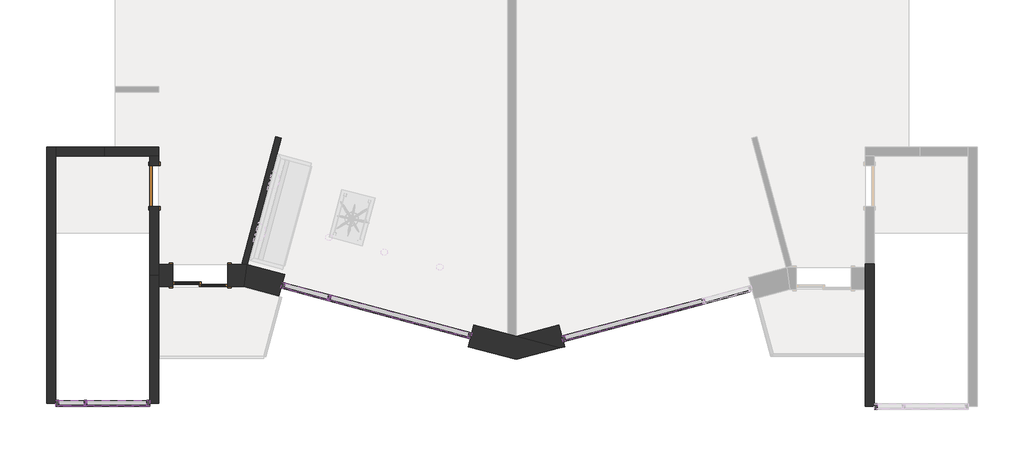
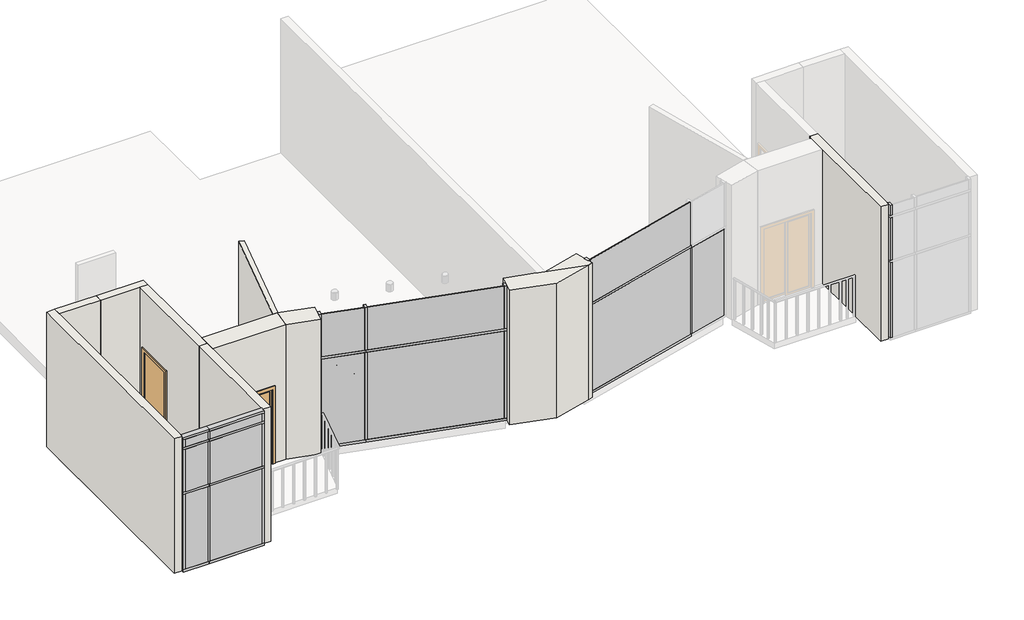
# One storey, part 1 of 3: 34 members, 13 plates, 11 walls, 2 doors.
"""IFC4 building model written with IfcOpenShell, lengths in millimetres."""

from ifc_helpers import new_model, si_unit, frame, origin, place, context, project, spatial, polyline, outline, extrude, faceted_brep, transform, mapped, element, save
from components import door_4f2f89b6, sliding_2_panel_fa528627, glazed_panel_glazed_panel_06b05642, glazed_panel_glazed_panel_b2ebe934, glazed_panel_glazed_panel_48c708ce, glazed_panel_glazed_panel_c77fde78, glazed_panel_glazed_panel_a2050918, glazed_panel_glazed_panel_1e96fca1, glazed_panel_glazed_panel_515930c6, glazed_panel_glazed_panel_f40463b3, glazed_panel_glazed_panel_0b05cef3, glazed_panel_glazed_panel_0a1ca9b5, glazed_panel_glazed_panel_ec4ddaf9, glazed_panel_glazed_panel_cd81baf5, glazed_panel_glazed_panel_d73316d2

model = new_model("IFC4")

# Units and contexts
model_context = context("Model", 3, world=origin())
ifc_project = project(units=[si_unit("LENGTHUNIT", "METRE", prefix="MILLI")], contexts=[model_context])

# Site, building, storey
site = spatial("IfcSite", under=ifc_project)
building = spatial("IfcBuilding", under=site)
storey = spatial("IfcBuildingStorey", under=building, Name="2nd Flr. Cnst.", Elevation=3657.6)

# Doors
placement = place(None, origin())
door_shape = door_4f2f89b6(model_context)
element("IfcDoor", 1, ObjectType="Sgl Flush : 36\" x 80\"", at=placement, inside=storey, context=model_context, shape_type="MappedRepresentation", body=[
    mapped(door_shape, transform((-178.915882, -933.2992683, 3657.6), x_axis=(0.0, 1.0, 0.0), y_axis=(-1.0, 0.0, 0.0), z_axis=(0.0, 0.0, 1.0))),
])
sliding_2_panel_shape = sliding_2_panel_fa528627(model_context)
element("IfcDoor", 2, ObjectType="Sliding-2 panel : Cohouse - Sliding-2 ", at=placement, inside=storey, context=model_context, shape_type="MappedRepresentation", body=[
    mapped(sliding_2_panel_shape, transform((837.084118, -2787.4992683, 3657.6), x_axis=(-1.0, 0.0, 0.0), y_axis=(0.0, -1.0, 0.0), z_axis=(0.0, 0.0, 1.0))),
])

# Members
element("IfcMember", 3, ObjectType="Rectangular Mullion : 2.5\" x 5\" rectangular", at=placement, inside=storey, context=model_context, shape_type="SweptSolid", body=[
    extrude(outline(polyline([(3713.0844872, -3483.4142625), (3651.7481973, -3466.9792531), (3684.618216, -3344.3066732), (3745.954506, -3360.7416825), (3713.0844872, -3483.4142625)])), frame((0.0, 0.0, 3721.1), z_axis=(0.0, 0.0, 1.0), x_axis=(1.0, 0.0, 0.0)), (0.0, 0.0, 1.0), 2374.9),
])
element("IfcMember", 4, ObjectType="Rectangular Mullion : 2.5\" x 5\" rectangular", at=placement, inside=storey, context=model_context, shape_type="SweptSolid", body=[
    extrude(outline(polyline([(3713.0844872, -3483.4142625), (3651.7481973, -3466.9792531), (3684.618216, -3344.3066732), (3745.954506, -3360.7416825), (3713.0844872, -3483.4142625)])), frame((0.0, 0.0, 6159.5), z_axis=(0.0, 0.0, 1.0), x_axis=(1.0, 0.0, 0.0)), (0.0, 0.0, 1.0), 1155.7),
])
element("IfcMember", 5, ObjectType="Rectangular Mullion : 2.5\" x 5\" rectangular", at=placement, inside=storey, context=model_context, shape_type="SweptSolid", body=[
    extrude(outline(polyline([(3715.286361, -3352.5241778), (3682.4163423, -3475.1967578), (2626.8568487, -3192.3604439), (2659.7268674, -3069.687864), (3715.286361, -3352.5241778)])), frame((0.0, 0.0, 6096.0), z_axis=(0.0, 0.0, 1.0), x_axis=(1.0, 0.0, 0.0)), (0.0, 0.0, 1.0), 63.5),
])
element("IfcMember", 6, ObjectType="Rectangular Mullion : 2.5\" x 5\" rectangular", at=placement, inside=storey, context=model_context, shape_type="SweptSolid", body=[
    extrude(outline(polyline([(6855.7490815, -4194.0086277), (6822.8790627, -4316.6812076), (3682.4163423, -3475.1967578), (3715.286361, -3352.5241778), (6855.7490815, -4194.0086277)])), frame((0.0, 0.0, 6096.0), z_axis=(0.0, 0.0, 1.0), x_axis=(1.0, 0.0, 0.0)), (0.0, 0.0, 1.0), 63.5),
])
element("IfcMember", 7, ObjectType="Rectangular Mullion : 2.5\" x 5\" rectangular", at=placement, inside=storey, context=model_context, shape_type="SweptSolid", body=[
    extrude(outline(polyline([(2626.8568487, -3192.3604439), (2659.7268674, -3069.687864), (3715.286361, -3352.5241778), (3682.4163423, -3475.1967578), (2626.8568487, -3192.3604439)])), frame((0.0, 0.0, 3657.6), z_axis=(0.0, 0.0, 1.0), x_axis=(1.0, 0.0, 0.0)), (0.0, 0.0, 1.0), 63.5),
])
element("IfcMember", 8, ObjectType="Rectangular Mullion : 2.5\" x 5\" rectangular", at=placement, inside=storey, context=model_context, shape_type="SweptSolid", body=[
    extrude(outline(polyline([(3682.4163423, -3475.1967578), (3715.286361, -3352.5241778), (6855.7490815, -4194.0086277), (6822.8790627, -4316.6812076), (3682.4163423, -3475.1967578)])), frame((0.0, 0.0, 3657.6), z_axis=(0.0, 0.0, 1.0), x_axis=(1.0, 0.0, 0.0)), (0.0, 0.0, 1.0), 63.5),
])
element("IfcMember", 9, ObjectType="Rectangular Mullion : 2.5\" x 5\" rectangular", at=placement, inside=storey, context=model_context, shape_type="SweptSolid", body=[
    extrude(outline(polyline([(6822.8790627, -4316.6812076), (6761.5427728, -4300.2461982), (6794.4127915, -4177.5736183), (6855.7490815, -4194.0086277), (6822.8790627, -4316.6812076)])), frame((0.0, 0.0, 3721.1), z_axis=(0.0, 0.0, 1.0), x_axis=(1.0, 0.0, 0.0)), (0.0, 0.0, 1.0), 2374.9),
])
element("IfcMember", 10, ObjectType="Rectangular Mullion : 2.5\" x 5\" rectangular", at=placement, inside=storey, context=model_context, shape_type="SweptSolid", body=[
    extrude(outline(polyline([(6822.8790627, -4316.6812076), (6761.5427728, -4300.2461982), (6794.4127915, -4177.5736183), (6855.7490815, -4194.0086277), (6822.8790627, -4316.6812076)])), frame((0.0, 0.0, 6159.5), z_axis=(0.0, 0.0, 1.0), x_axis=(1.0, 0.0, 0.0)), (0.0, 0.0, 1.0), 1155.7),
])
element("IfcMember", 11, ObjectType="Rectangular Mullion : 2.5\" x 5\" rectangular", at=placement, inside=storey, context=model_context, shape_type="SweptSolid", body=[
    extrude(outline(polyline([(2626.8568487, -3192.3604439), (2659.7268674, -3069.687864), (2721.0631574, -3086.1228733), (2688.1931387, -3208.7954533), (2626.8568487, -3192.3604439)])), frame((0.0, 0.0, 6159.5), z_axis=(0.0, 0.0, 1.0), x_axis=(1.0, 0.0, 0.0)), (0.0, 0.0, 1.0), 1155.7),
])
element("IfcMember", 12, ObjectType="Rectangular Mullion : 2.5\" x 5\" rectangular", at=placement, inside=storey, context=model_context, shape_type="SweptSolid", body=[
    extrude(outline(polyline([(2626.8568487, -3192.3604439), (2659.7268674, -3069.687864), (2721.0631574, -3086.1228733), (2688.1931387, -3208.7954533), (2626.8568487, -3192.3604439)])), frame((0.0, 0.0, 3721.1), z_axis=(0.0, 0.0, 1.0), x_axis=(1.0, 0.0, 0.0)), (0.0, 0.0, 1.0), 2374.9),
])
element("IfcMember", 13, ObjectType="Rectangular Mullion : 2.5\" x 5\" rectangular", at=placement, inside=storey, context=model_context, shape_type="SweptSolid", body=[
    extrude(outline(polyline([(8880.4915643, -4383.5871417), (8847.6215456, -4260.9145618), (11985.1047873, -3420.2284609), (12017.9748061, -3542.9010408), (8880.4915643, -4383.5871417)])), frame((0.0, 0.0, 6064.25), z_axis=(0.0, 0.0, 1.0), x_axis=(1.0, 0.0, 0.0)), (0.0, 0.0, 1.0), 63.5),
])
element("IfcMember", 14, ObjectType="Rectangular Mullion : 2.5\" x 5\" rectangular", at=placement, inside=storey, context=model_context, shape_type="SweptSolid", body=[
    extrude(outline(polyline([(11985.1047873, -3420.2284609), (12017.9748061, -3542.9010408), (8880.4915643, -4383.5871417), (8847.6215456, -4260.9145618), (11985.1047873, -3420.2284609)])), frame((0.0, 0.0, 3657.6), z_axis=(0.0, 0.0, 1.0), x_axis=(1.0, 0.0, 0.0)), (0.0, 0.0, 1.0), 63.5),
])
element("IfcMember", 15, ObjectType="Rectangular Mullion : 2.5\" x 5\" rectangular", at=placement, inside=storey, context=model_context, shape_type="SweptSolid", body=[
    extrude(outline(polyline([(8847.6215456, -4260.9145618), (8908.9578356, -4244.4795524), (8941.8278543, -4367.1521323), (8880.4915643, -4383.5871417), (8847.6215456, -4260.9145618)])), frame((0.0, 0.0, 3721.1), z_axis=(0.0, 0.0, 1.0), x_axis=(1.0, 0.0, 0.0)), (0.0, 0.0, 1.0), 2343.15),
])
element("IfcMember", 16, ObjectType="Rectangular Mullion : 2.5\" x 5\" rectangular", at=placement, inside=storey, context=model_context, shape_type="SweptSolid", body=[
    extrude(outline(polyline([(8847.6215456, -4260.9145618), (8908.9578356, -4244.4795524), (8941.8278543, -4367.1521323), (8880.4915643, -4383.5871417), (8847.6215456, -4260.9145618)])), frame((0.0, 0.0, 6127.75), z_axis=(0.0, 0.0, 1.0), x_axis=(1.0, 0.0, 0.0)), (0.0, 0.0, 1.0), 1187.45),
])
element("IfcMember", 17, ObjectType="Rectangular Mullion : 2.5\" x 5\" rectangular", at=placement, inside=storey, context=model_context, shape_type="SweptSolid", body=[
    extrude(outline(polyline([(-2363.315882, -5690.1371942), (-2299.815882, -5690.1371942), (-2299.815882, -5817.1371942), (-2363.315882, -5817.1371942), (-2363.315882, -5690.1371942)])), frame((0.0, 0.0, 3721.1), z_axis=(0.0, 0.0, 1.0), x_axis=(1.0, 0.0, 0.0)), (0.0, 0.0, 1.0), 2038.35),
])
element("IfcMember", 18, ObjectType="Rectangular Mullion : 2.5\" x 5\" rectangular", at=placement, inside=storey, context=model_context, shape_type="SweptSolid", body=[
    extrude(outline(polyline([(-2363.315882, -5817.1371942), (-2363.315882, -5690.1371942), (-1702.915882, -5690.1371942), (-1702.915882, -5817.1371942), (-2363.315882, -5817.1371942)])), frame((0.0, 0.0, 7251.7), z_axis=(0.0, 0.0, 1.0), x_axis=(1.0, 0.0, 0.0)), (0.0, 0.0, 1.0), 63.5),
])
element("IfcMember", 19, ObjectType="Rectangular Mullion : 2.5\" x 5\" rectangular", at=placement, inside=storey, context=model_context, shape_type="SweptSolid", body=[
    extrude(outline(polyline([(-280.515882, -5690.1371942), (-280.515882, -5817.1371942), (-344.015882, -5817.1371942), (-344.015882, -5690.1371942), (-280.515882, -5690.1371942)])), frame((0.0, 0.0, 7042.15), z_axis=(0.0, 0.0, 1.0), x_axis=(1.0, 0.0, 0.0)), (0.0, 0.0, 1.0), 209.55),
])
element("IfcMember", 20, ObjectType="Rectangular Mullion : 2.5\" x 5\" rectangular", at=placement, inside=storey, context=model_context, shape_type="SweptSolid", body=[
    extrude(outline(polyline([(-1734.665882, -5690.1371942), (-1671.165882, -5690.1371942), (-1671.165882, -5817.1371942), (-1734.665882, -5817.1371942), (-1734.665882, -5690.1371942)])), frame((0.0, 0.0, 3721.1), z_axis=(0.0, 0.0, 1.0), x_axis=(1.0, 0.0, 0.0)), (0.0, 0.0, 1.0), 2038.35),
])
element("IfcMember", 21, ObjectType="Rectangular Mullion : 2.5\" x 5\" rectangular", at=placement, inside=storey, context=model_context, shape_type="SweptSolid", body=[
    extrude(outline(polyline([(-1702.915882, -5817.1371942), (-1702.915882, -5690.1371942), (-280.515882, -5690.1371942), (-280.515882, -5817.1371942), (-1702.915882, -5817.1371942)])), frame((0.0, 0.0, 5759.45), z_axis=(0.0, 0.0, 1.0), x_axis=(1.0, 0.0, 0.0)), (0.0, 0.0, 1.0), 63.5),
])
element("IfcMember", 22, ObjectType="Rectangular Mullion : 2.5\" x 5\" rectangular", at=placement, inside=storey, context=model_context, shape_type="SweptSolid", body=[
    extrude(outline(polyline([(-2363.315882, -5817.1371942), (-2363.315882, -5690.1371942), (-1702.915882, -5690.1371942), (-1702.915882, -5817.1371942), (-2363.315882, -5817.1371942)])), frame((0.0, 0.0, 5759.45), z_axis=(0.0, 0.0, 1.0), x_axis=(1.0, 0.0, 0.0)), (0.0, 0.0, 1.0), 63.5),
])
element("IfcMember", 23, ObjectType="Rectangular Mullion : 2.5\" x 5\" rectangular", at=placement, inside=storey, context=model_context, shape_type="SweptSolid", body=[
    extrude(outline(polyline([(-2363.315882, -5690.1371942), (-2299.815882, -5690.1371942), (-2299.815882, -5817.1371942), (-2363.315882, -5817.1371942), (-2363.315882, -5690.1371942)])), frame((0.0, 0.0, 5822.95), z_axis=(0.0, 0.0, 1.0), x_axis=(1.0, 0.0, 0.0)), (0.0, 0.0, 1.0), 1155.7),
])
element("IfcMember", 24, ObjectType="Rectangular Mullion : 2.5\" x 5\" rectangular", at=placement, inside=storey, context=model_context, shape_type="SweptSolid", body=[
    extrude(outline(polyline([(-1702.915882, -5817.1371942), (-1702.915882, -5690.1371942), (-280.515882, -5690.1371942), (-280.515882, -5817.1371942), (-1702.915882, -5817.1371942)])), frame((0.0, 0.0, 7251.7), z_axis=(0.0, 0.0, 1.0), x_axis=(1.0, 0.0, 0.0)), (0.0, 0.0, 1.0), 63.5),
])
element("IfcMember", 25, ObjectType="Rectangular Mullion : 2.5\" x 5\" rectangular", at=placement, inside=storey, context=model_context, shape_type="SweptSolid", body=[
    extrude(outline(polyline([(-280.515882, -5690.1371942), (-280.515882, -5817.1371942), (-344.015882, -5817.1371942), (-344.015882, -5690.1371942), (-280.515882, -5690.1371942)])), frame((0.0, 0.0, 3721.1), z_axis=(0.0, 0.0, 1.0), x_axis=(1.0, 0.0, 0.0)), (0.0, 0.0, 1.0), 2038.35),
])
element("IfcMember", 26, ObjectType="Rectangular Mullion : 2.5\" x 5\" rectangular", at=placement, inside=storey, context=model_context, shape_type="SweptSolid", body=[
    extrude(outline(polyline([(-1734.665882, -5690.1371942), (-1671.165882, -5690.1371942), (-1671.165882, -5817.1371942), (-1734.665882, -5817.1371942), (-1734.665882, -5690.1371942)])), frame((0.0, 0.0, 5822.95), z_axis=(0.0, 0.0, 1.0), x_axis=(1.0, 0.0, 0.0)), (0.0, 0.0, 1.0), 1155.7),
])
element("IfcMember", 27, ObjectType="Rectangular Mullion : 2.5\" x 5\" rectangular", at=placement, inside=storey, context=model_context, shape_type="SweptSolid", body=[
    extrude(outline(polyline([(15772.284118, -5759.6962362), (15835.784118, -5759.6962362), (15835.784118, -5886.6962362), (15772.284118, -5886.6962362), (15772.284118, -5759.6962362)])), frame((0.0, 0.0, 3721.1), z_axis=(0.0, 0.0, 1.0), x_axis=(1.0, 0.0, 0.0)), (0.0, 0.0, 1.0), 2038.35),
])
element("IfcMember", 28, ObjectType="Rectangular Mullion : 2.5\" x 5\" rectangular", at=placement, inside=storey, context=model_context, shape_type="SweptSolid", body=[
    extrude(outline(polyline([(15772.284118, -5759.6962362), (15835.784118, -5759.6962362), (15835.784118, -5886.6962362), (15772.284118, -5886.6962362), (15772.284118, -5759.6962362)])), frame((0.0, 0.0, 7042.15), z_axis=(0.0, 0.0, 1.0), x_axis=(1.0, 0.0, 0.0)), (0.0, 0.0, 1.0), 273.05),
])
element("IfcMember", 29, ObjectType="Rectangular Mullion : 2.5\" x 5\" rectangular", at=placement, inside=storey, context=model_context, shape_type="SweptSolid", body=[
    extrude(outline(polyline([(15772.284118, -5759.6962362), (15835.784118, -5759.6962362), (15835.784118, -5886.6962362), (15772.284118, -5886.6962362), (15772.284118, -5759.6962362)])), frame((0.0, 0.0, 5822.95), z_axis=(0.0, 0.0, 1.0), x_axis=(1.0, 0.0, 0.0)), (0.0, 0.0, 1.0), 1155.7),
])
element("IfcMember", 30, ObjectType="Rectangular Mullion : 2.5\" x 5\" rectangular", at=placement, inside=storey, context=model_context, shape_type="SweptSolid", body=[
    extrude(outline(polyline([(-1702.915882, -5817.1371942), (-1702.915882, -5690.1371942), (-280.515882, -5690.1371942), (-280.515882, -5817.1371942), (-1702.915882, -5817.1371942)])), frame((0.0, 0.0, 6978.65), z_axis=(0.0, 0.0, 1.0), x_axis=(1.0, 0.0, 0.0)), (0.0, 0.0, 1.0), 63.5),
])
element("IfcMember", 31, ObjectType="Rectangular Mullion : 2.5\" x 5\" rectangular", at=placement, inside=storey, context=model_context, shape_type="SweptSolid", body=[
    extrude(outline(polyline([(-2363.315882, -5817.1371942), (-2363.315882, -5690.1371942), (-1702.915882, -5690.1371942), (-1702.915882, -5817.1371942), (-2363.315882, -5817.1371942)])), frame((0.0, 0.0, 6978.65), z_axis=(0.0, 0.0, 1.0), x_axis=(1.0, 0.0, 0.0)), (0.0, 0.0, 1.0), 63.5),
])
element("IfcMember", 32, ObjectType="Rectangular Mullion : 2.5\" x 5\" rectangular", at=placement, inside=storey, context=model_context, shape_type="SweptSolid", body=[
    extrude(outline(polyline([(-1734.665882, -5690.1371942), (-1671.165882, -5690.1371942), (-1671.165882, -5817.1371942), (-1734.665882, -5817.1371942), (-1734.665882, -5690.1371942)])), frame((0.0, 0.0, 7042.15), z_axis=(0.0, 0.0, 1.0), x_axis=(1.0, 0.0, 0.0)), (0.0, 0.0, 1.0), 209.55),
])
element("IfcMember", 33, ObjectType="Rectangular Mullion : 2.5\" x 5\" rectangular", at=placement, inside=storey, context=model_context, shape_type="SweptSolid", body=[
    extrude(outline(polyline([(-280.515882, -5690.1371942), (-280.515882, -5817.1371942), (-1702.915882, -5817.1371942), (-1702.915882, -5690.1371942), (-280.515882, -5690.1371942)])), frame((0.0, 0.0, 3657.6), z_axis=(0.0, 0.0, 1.0), x_axis=(1.0, 0.0, 0.0)), (0.0, 0.0, 1.0), 63.5),
])
element("IfcMember", 34, ObjectType="Rectangular Mullion : 2.5\" x 5\" rectangular", at=placement, inside=storey, context=model_context, shape_type="SweptSolid", body=[
    extrude(outline(polyline([(-1702.915882, -5690.1371942), (-1702.915882, -5817.1371942), (-2363.315882, -5817.1371942), (-2363.315882, -5690.1371942), (-1702.915882, -5690.1371942)])), frame((0.0, 0.0, 3657.6), z_axis=(0.0, 0.0, 1.0), x_axis=(1.0, 0.0, 0.0)), (0.0, 0.0, 1.0), 63.5),
])
element("IfcMember", 35, ObjectType="Rectangular Mullion : 2.5\" x 5\" rectangular", at=placement, inside=storey, context=model_context, shape_type="SweptSolid", body=[
    extrude(outline(polyline([(-2363.315882, -5690.1371942), (-2299.815882, -5690.1371942), (-2299.815882, -5817.1371942), (-2363.315882, -5817.1371942), (-2363.315882, -5690.1371942)])), frame((0.0, 0.0, 7042.15), z_axis=(0.0, 0.0, 1.0), x_axis=(1.0, 0.0, 0.0)), (0.0, 0.0, 1.0), 209.55),
])
element("IfcMember", 36, ObjectType="Rectangular Mullion : 2.5\" x 5\" rectangular", at=placement, inside=storey, context=model_context, shape_type="SweptSolid", body=[
    extrude(outline(polyline([(-280.515882, -5690.1371942), (-280.515882, -5817.1371942), (-344.015882, -5817.1371942), (-344.015882, -5690.1371942), (-280.515882, -5690.1371942)])), frame((0.0, 0.0, 5822.95), z_axis=(0.0, 0.0, 1.0), x_axis=(1.0, 0.0, 0.0)), (0.0, 0.0, 1.0), 1155.7),
])

# Plates
glazed_panel_glazed_panel_shape = glazed_panel_glazed_panel_06b05642(model_context)
element("IfcPlate", 37, ObjectType="Glazed Panel : Glazed Panel", at=placement, inside=storey, context=model_context, shape_type="MappedRepresentation", body=[
    mapped(glazed_panel_glazed_panel_shape, transform((-1007.590882, -5753.6371942, 3721.1), x_axis=(-1.0, 0.0, 0.0), y_axis=(0.0, -1.0, 0.0), z_axis=(0.0, 0.0, 1.0))),
])
glazed_panel_glazed_panel_2_shape = glazed_panel_glazed_panel_b2ebe934(model_context)
element("IfcPlate", 38, ObjectType="Glazed Panel : Glazed Panel", at=placement, inside=storey, context=model_context, shape_type="MappedRepresentation", body=[
    mapped(glazed_panel_glazed_panel_2_shape, transform((3186.4056773, -3276.5510632, 3721.1), x_axis=(0.9659258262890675, -0.2588190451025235, 0.0), y_axis=(0.2588190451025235, 0.9659258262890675, 0.0), z_axis=(0.0, 0.0, 1.0))),
])
glazed_panel_glazed_panel_3_shape = glazed_panel_glazed_panel_48c708ce(model_context)
element("IfcPlate", 39, ObjectType="Glazed Panel : Glazed Panel", at=placement, inside=storey, context=model_context, shape_type="MappedRepresentation", body=[
    mapped(glazed_panel_glazed_panel_3_shape, transform((5253.7486394, -3830.4939404, 3721.1), x_axis=(0.9659258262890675, -0.2588190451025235, 0.0), y_axis=(0.2588190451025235, 0.9659258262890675, 0.0), z_axis=(0.0, 0.0, 1.0))),
])
glazed_panel_glazed_panel_4_shape = glazed_panel_glazed_panel_c77fde78(model_context)
element("IfcPlate", 40, ObjectType="Glazed Panel : Glazed Panel", at=placement, inside=storey, context=model_context, shape_type="MappedRepresentation", body=[
    mapped(glazed_panel_glazed_panel_4_shape, transform((3186.4056773, -3276.5510632, 6159.5), x_axis=(0.9659258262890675, -0.2588190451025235, 0.0), y_axis=(0.2588190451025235, 0.9659258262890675, 0.0), z_axis=(0.0, 0.0, 1.0))),
])
glazed_panel_glazed_panel_5_shape = glazed_panel_glazed_panel_a2050918(model_context)
element("IfcPlate", 41, ObjectType="Glazed Panel : Glazed Panel", at=placement, inside=storey, context=model_context, shape_type="MappedRepresentation", body=[
    mapped(glazed_panel_glazed_panel_5_shape, transform((5253.7486394, -3830.4939404, 6159.5), x_axis=(0.9659258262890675, -0.2588190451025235, 0.0), y_axis=(0.2588190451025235, 0.9659258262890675, 0.0), z_axis=(0.0, 0.0, 1.0))),
])
glazed_panel_glazed_panel_6_shape = glazed_panel_glazed_panel_1e96fca1(model_context)
element("IfcPlate", 42, ObjectType="Glazed Panel : Glazed Panel", at=placement, inside=storey, context=model_context, shape_type="MappedRepresentation", body=[
    mapped(glazed_panel_glazed_panel_6_shape, transform((12513.985471, -3344.2553463, 3721.1), x_axis=(-0.9659258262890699, -0.25881904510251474, 0.0), y_axis=(0.25881904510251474, -0.9659258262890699, 0.0), z_axis=(0.0, 0.0, 1.0))),
])
glazed_panel_glazed_panel_7_shape = glazed_panel_glazed_panel_515930c6(model_context)
element("IfcPlate", 43, ObjectType="Glazed Panel : Glazed Panel", at=placement, inside=storey, context=model_context, shape_type="MappedRepresentation", body=[
    mapped(glazed_panel_glazed_panel_7_shape, transform((10448.1322483, -3897.7990489, 3721.1), x_axis=(-0.9659258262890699, -0.25881904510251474, 0.0), y_axis=(0.25881904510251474, -0.9659258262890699, 0.0), z_axis=(0.0, 0.0, 1.0))),
])
glazed_panel_glazed_panel_8_shape = glazed_panel_glazed_panel_f40463b3(model_context)
element("IfcPlate", 44, ObjectType="Glazed Panel : Glazed Panel", at=placement, inside=storey, context=model_context, shape_type="MappedRepresentation", body=[
    mapped(glazed_panel_glazed_panel_8_shape, transform((10448.1322483, -3897.7990489, 6127.75), x_axis=(-0.9659258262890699, -0.25881904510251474, 0.0), y_axis=(0.25881904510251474, -0.9659258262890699, 0.0), z_axis=(0.0, 0.0, 1.0))),
])
glazed_panel_glazed_panel_9_shape = glazed_panel_glazed_panel_0b05cef3(model_context)
element("IfcPlate", 45, ObjectType="Glazed Panel : Glazed Panel", at=placement, inside=storey, context=model_context, shape_type="MappedRepresentation", body=[
    mapped(glazed_panel_glazed_panel_9_shape, transform((-2017.240882, -5753.6371942, 3721.1), x_axis=(-1.0, 0.0, 0.0), y_axis=(0.0, -1.0, 0.0), z_axis=(0.0, 0.0, 1.0))),
])
glazed_panel_glazed_panel_10_shape = glazed_panel_glazed_panel_0a1ca9b5(model_context)
element("IfcPlate", 46, ObjectType="Glazed Panel : Glazed Panel", at=placement, inside=storey, context=model_context, shape_type="MappedRepresentation", body=[
    mapped(glazed_panel_glazed_panel_10_shape, transform((-1007.590882, -5753.6371942, 5822.95), x_axis=(-1.0, 0.0, 0.0), y_axis=(0.0, -1.0, 0.0), z_axis=(0.0, 0.0, 1.0))),
])
glazed_panel_glazed_panel_11_shape = glazed_panel_glazed_panel_ec4ddaf9(model_context)
element("IfcPlate", 47, ObjectType="Glazed Panel : Glazed Panel", at=placement, inside=storey, context=model_context, shape_type="MappedRepresentation", body=[
    mapped(glazed_panel_glazed_panel_11_shape, transform((-2017.240882, -5753.6371942, 5822.95), x_axis=(-1.0, 0.0, 0.0), y_axis=(0.0, -1.0, 0.0), z_axis=(0.0, 0.0, 1.0))),
])
glazed_panel_glazed_panel_12_shape = glazed_panel_glazed_panel_cd81baf5(model_context)
element("IfcPlate", 48, ObjectType="Glazed Panel : Glazed Panel", at=placement, inside=storey, context=model_context, shape_type="MappedRepresentation", body=[
    mapped(glazed_panel_glazed_panel_12_shape, transform((-1007.590882, -5753.6371942, 7042.15), x_axis=(-1.0, 0.0, 0.0), y_axis=(0.0, -1.0, 0.0), z_axis=(0.0, 0.0, 1.0))),
])
glazed_panel_glazed_panel_13_shape = glazed_panel_glazed_panel_d73316d2(model_context)
element("IfcPlate", 49, ObjectType="Glazed Panel : Glazed Panel", at=placement, inside=storey, context=model_context, shape_type="MappedRepresentation", body=[
    mapped(glazed_panel_glazed_panel_13_shape, transform((-2017.240882, -5753.6371942, 7042.15), x_axis=(-1.0, 0.0, 0.0), y_axis=(0.0, -1.0, 0.0), z_axis=(0.0, 0.0, 1.0))),
])

# Walls
element("IfcWall", 50, ObjectType="Cohouse - Exterior - Conc", at=placement, inside=storey, context=model_context, shape_type="Brep", body=[
    faceted_brep([(-77.315882, -69.6992683, 3657.6), (-1293.340882, -69.6992683, 3657.6), (-1293.340882, -69.6992683, 7315.2), (-77.315882, -69.6992683, 7315.2), (-77.315882, -272.8992683, 3657.6), (-77.315882, -272.8992683, 7315.2), (-280.515882, -272.8992683, 7315.2), (-1293.340882, -272.8992683, 7315.2), (-1293.340882, -272.8992683, 3657.6), (-280.515882, -272.8992683, 3657.6), (-1293.340882, -266.1666814, 7315.2)], [[[0, 1, 2, 3]], [[4, 5, 6, 7, 8, 9]], [[1, 0, 4, 9, 8]], [[2, 1, 8, 7, 10]], [[3, 2, 10, 7, 6, 5]], [[0, 3, 5, 4]]]),
])
element("IfcWall", 51, ObjectType="Cohouse - Exterior - Conc", at=placement, inside=storey, context=model_context, shape_type="Brep", body=[
    faceted_brep([(-2566.515882, -69.6992683, 3657.6), (-2566.515882, -5753.6371942, 3657.6), (-2566.515882, -5753.6371942, 7315.2), (-2566.515882, -69.6992683, 7315.2), (-2363.315882, -69.6992683, 3657.6), (-2363.315882, -69.6992683, 7315.2), (-2363.315882, -272.8992683, 7315.2), (-2363.315882, -5753.6371942, 7315.2), (-2363.315882, -5753.6371942, 3657.6), (-2363.315882, -272.8992683, 3657.6)], [[[0, 1, 2, 3]], [[4, 5, 6, 7, 8, 9]], [[1, 0, 4, 9, 8]], [[2, 1, 8, 7]], [[3, 2, 7, 6, 5]], [[0, 3, 5, 4]]]),
])
element("IfcWall", 52, ObjectType="Cohouse - Exterior - Conc", at=placement, inside=storey, context=model_context, shape_type="Brep", body=[
    faceted_brep([(-280.515882, -272.8992683, 3657.6), (-280.515882, -476.0992683, 3657.6), (-280.515882, -476.0992683, 5689.6), (-280.515882, -1390.4992683, 5689.6), (-280.515882, -1390.4992683, 3657.6), (-280.515882, -2914.4992683, 3657.6), (-280.515882, -2914.4992683, 7315.2), (-280.515882, -272.8992683, 7315.2), (-77.315882, -476.0992683, 5689.6), (-77.315882, -476.0992683, 3657.6), (-77.315882, -272.8992683, 3657.6), (-77.315882, -272.8992683, 7315.2), (-77.315882, -2666.8492683, 7315.2), (-77.315882, -2914.4992683, 7315.2), (-77.315882, -2914.4992683, 3657.6), (-77.315882, -2666.8492683, 3657.6), (-77.315882, -1390.4992683, 3657.6), (-77.315882, -1390.4992683, 5689.6)], [[[0, 1, 2, 3, 4, 5, 6, 7]], [[8, 9, 10, 11, 12, 13, 14, 15, 16, 17]], [[10, 9, 1, 0]], [[16, 15, 14, 5, 4]], [[6, 5, 14, 13]], [[7, 6, 13, 12, 11]], [[0, 7, 11, 10]], [[2, 1, 9, 8]], [[3, 2, 8, 17]], [[4, 3, 17, 16]]]),
])
element("IfcWall", 53, ObjectType="Cohouse - Exterior - Conc", at=placement, inside=storey, context=model_context, shape_type="Brep", body=[
    faceted_brep([(-1293.340882, -69.6992683, 3657.6), (-2363.315882, -69.6992683, 3657.6), (-2363.315882, -69.6992683, 7315.2), (-1293.340882, -69.6992683, 7315.2), (-1293.340882, -272.8992683, 3657.6), (-1293.340882, -272.8992683, 7315.2), (-2363.315882, -272.8992683, 7315.2), (-2363.315882, -272.8992683, 3657.6), (-1293.340882, -266.1666814, 7315.2)], [[[0, 1, 2, 3]], [[4, 5, 6, 7]], [[1, 0, 4, 7]], [[3, 2, 6, 5, 8]], [[0, 3, 8, 5, 4]], [[2, 1, 7, 6]]]),
])
element("IfcWall", 54, ObjectType="Cohouse - Exterior - Conc", at=placement, inside=storey, context=model_context, shape_type="Brep", body=[
    faceted_brep([(-280.515882, -2914.4992683, 3657.6), (-280.515882, -5753.6371942, 3657.6), (-280.515882, -5753.6371942, 7315.2), (-280.515882, -5746.9046074, 7315.2), (-280.515882, -2914.4992683, 7315.2), (-77.315882, -2914.4992683, 3657.6), (-77.315882, -2914.4992683, 7315.2), (-77.315882, -3162.1492683, 7315.2), (-77.315882, -5746.9046074, 7315.2), (-77.315882, -5753.6371942, 7315.2), (-77.315882, -5753.6371942, 3657.6), (-77.315882, -3162.1492683, 3657.6)], [[[0, 1, 2, 3, 4]], [[5, 6, 7, 8, 9, 10, 11]], [[1, 0, 5, 11, 10]], [[2, 1, 10, 9]], [[4, 3, 2, 9, 8, 7, 6]], [[0, 4, 6, 5]]]),
])
element("IfcWall", 55, ObjectType="Cohouse - Exterior - Conc", at=placement, inside=storey, context=model_context, shape_type="Brep", body=[
    faceted_brep([(15569.084118, -2662.0867683, 3657.6), (15569.084118, -2734.5535513, 3657.6), (15569.084118, -3229.8535513, 3657.6), (15569.084118, -5823.1962362, 3657.6), (15569.084118, -5823.1962362, 7315.2), (15569.084118, -3229.8535513, 7315.2), (15569.084118, -2734.5535513, 7315.2), (15569.084118, -2662.0867683, 7315.2), (15772.284118, -2662.0867683, 3657.6), (15772.284118, -2662.0867683, 7315.2), (15772.284118, -5823.1962362, 7315.2), (15772.284118, -5823.1962362, 3657.6)], [[[0, 1, 2, 3, 4, 5, 6, 7]], [[8, 9, 10, 11]], [[3, 2, 1, 0, 8, 11]], [[4, 3, 11, 10]], [[7, 6, 5, 4, 10, 9]], [[0, 7, 9, 8]]]),
])
element("IfcWall", 56, ObjectType="Cohouse - Interior - 4 7/8\" Partition (1-hr)", at=placement, inside=storey, context=model_context, shape_type="Brep", body=[
    faceted_brep([(1883.4068308, -2666.8492683, 3657.6), (2633.0313434, 130.7874995, 3657.6), (2633.0313434, 130.7874995, 7315.2), (1883.4068308, -2666.8492683, 7315.2), (1755.2137578, -2666.8492683, 3657.6), (1755.2137578, -2666.8492683, 7315.2), (2513.425578, 162.8357678, 7315.2), (2513.425578, 162.8357678, 3657.6), (1867.8137247, -2666.8492683, 3657.6), (1867.8137247, -2666.8492683, 7315.2)], [[[0, 1, 2, 3]], [[4, 5, 6, 7]], [[1, 0, 8, 4, 7]], [[2, 1, 7, 6]], [[3, 2, 6, 5, 9]], [[0, 3, 9, 5, 4, 8]]]),
])
element("IfcWall", 57, ObjectType="Co-house - Exterior - Brick on CMU", at=placement, inside=storey, context=model_context, shape_type="Brep", body=[
    faceted_brep([(-77.315882, -3162.1492683, 3657.6), (227.484118, -3162.1492683, 3657.6), (227.484118, -3162.1492683, 5689.6), (1446.684118, -3162.1492683, 5689.6), (1446.684118, -3162.1492683, 3657.6), (1802.6062427, -3162.1492683, 3657.6), (1802.6062427, -3162.1492683, 7315.2), (-77.315882, -3162.1492683, 7315.2), (227.484118, -2666.8492683, 5689.6), (227.484118, -2666.8492683, 3657.6), (-77.315882, -2666.8492683, 3657.6), (-77.315882, -2666.8492683, 7315.2), (1755.2137578, -2666.8492683, 7315.2), (1867.8137247, -2666.8492683, 7315.2), (1867.8137247, -2666.8492683, 3657.6), (1755.2137578, -2666.8492683, 3657.6), (1446.684118, -2666.8492683, 3657.6), (1446.684118, -2666.8492683, 5689.6), (-77.315882, -2914.4992683, 3657.6), (-77.315882, -2914.4992683, 7315.2)], [[[0, 1, 2, 3, 4, 5, 6, 7]], [[8, 9, 10, 11, 12, 13, 14, 15, 16, 17]], [[10, 9, 1, 0, 18]], [[16, 15, 14, 5, 4]], [[7, 6, 13, 12, 11, 19]], [[6, 5, 14, 13]], [[0, 7, 19, 11, 10, 18]], [[4, 3, 17, 16]], [[2, 1, 9, 8]], [[3, 2, 8, 17]]]),
])
element("IfcWall", 58, ObjectType="Co-house - Exterior - Brick on CMU", at=placement, inside=storey, context=model_context, shape_type="SweptSolid", body=[
    extrude(outline(polyline([(2579.1953215, -3370.2356848), (1802.6062427, -3162.1492683), (1867.8137247, -2666.8492683), (2707.3883946, -2891.8126231), (2579.1953215, -3370.2356848)])), frame((0.0, 0.0, 3657.6), z_axis=(0.0, 0.0, 1.0), x_axis=(1.0, 0.0, 0.0)), (0.0, 0.0, 1.0), 3657.6),
])
element("IfcWall", 59, ObjectType="Co-house - Exterior - Brick on CMU", at=placement, inside=storey, context=model_context, shape_type="Brep", body=[
    faceted_brep([(6775.2175356, -4494.5564485, 3657.6), (7842.721618, -4780.5933053, 3657.6), (7842.721618, -4780.5933053, 7315.2), (6775.2175356, -4494.5564485, 7315.2), (6903.4106086, -4016.1333867, 3657.6), (6903.4106086, -4016.1333867, 7315.2), (7649.046618, -4215.9259533, 7315.2), (7842.721618, -4267.8210132, 7315.2), (8799.5677416, -4524.2071592, 7315.2), (8799.5677416, -4524.2071592, 3657.6), (7842.721618, -4267.8210132, 3657.6), (7649.046618, -4215.9259533, 3657.6)], [[[0, 1, 2, 3]], [[4, 5, 6, 7, 8, 9, 10, 11]], [[1, 0, 4, 11, 10, 9]], [[3, 2, 8, 7, 6, 5]], [[0, 3, 5, 4]], [[2, 1, 9, 8]]]),
])
element("IfcWall", 60, ObjectType="Co-house - Exterior - Brick on CMU", at=placement, inside=storey, context=model_context, shape_type="SweptSolid", body=[
    extrude(outline(polyline([(7842.721618, -4267.8210132), (8782.0326274, -4016.1333867), (8910.2257005, -4494.5564485), (8799.5677416, -4524.2071592), (7842.721618, -4267.8210132)])), frame((0.0, 0.0, 3657.6), z_axis=(0.0, 0.0, 1.0), x_axis=(1.0, 0.0, 0.0)), (0.0, 0.0, 1.0), 3657.6),
])

save(model, "model.ifc")
